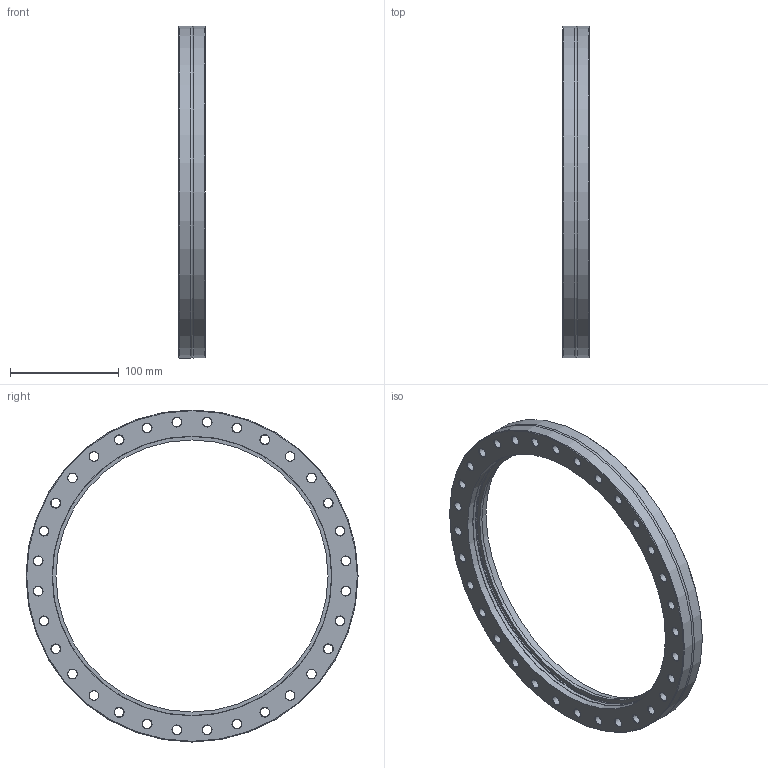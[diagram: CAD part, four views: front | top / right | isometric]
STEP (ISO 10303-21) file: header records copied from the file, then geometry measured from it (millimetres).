
FILE_DESCRIPTION((''),'2;1');
FILE_NAME('W:\13785_CF_Global_Fit_Umsetzung\067_Welding_Flange_Rotable\M213-147.stp','2010-09-01T10:59:11',('KAA'),(''),'Autodesk Inventor 2011','Autodesk Inventor 2011','');
FILE_SCHEMA(('AUTOMOTIVE_DESIGN { 1 0 10303 214 1 1 1 1 }'));
Length unit declared in the file: millimetre
Products named in the file (1): 213-147
Bounding box: 24.5 x 305 x 305 mm (x, y, z)
Volume: 475767 mm3; surface area: 137595.1 mm2
Topology: 1 solids, 1 shells, 213 faces, 553 edges, 355 vertices
Faces by surface type: cone 71, plane 53, cylinder 50, bspline 35, torus 4
Full cylindrical faces by diameter (mm): 8.4 x32, 250 x1, 256 x1, 256.5 x1, 257 x1, 272.7 x1, 273.1 x1, 305 x2
Entity records: 15093 total; most frequent: CARTESIAN_POINT 10477, DIRECTION 824, ORIENTED_EDGE 812, EDGE_CURVE 406, EDGE_LOOP 405, AXIS2_PLACEMENT_3D 358, VERTEX_POINT 321, FACE_OUTER_BOUND 213
